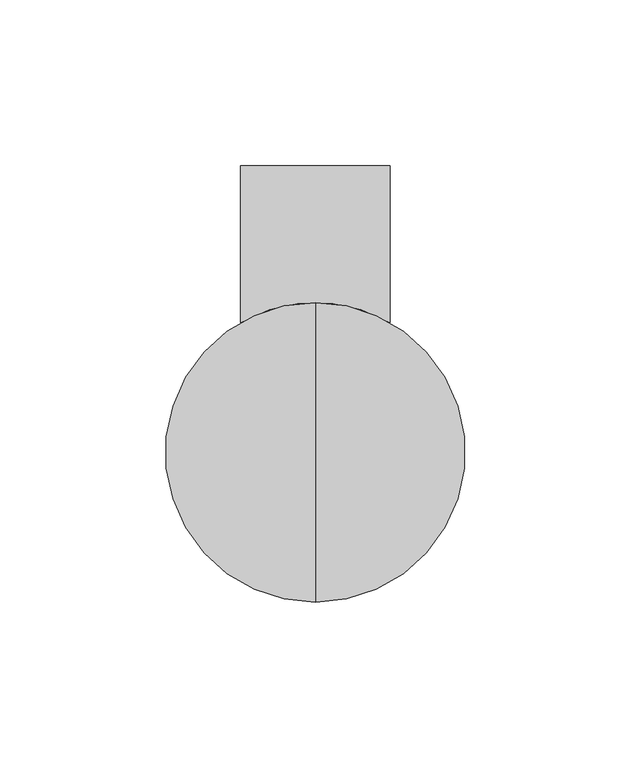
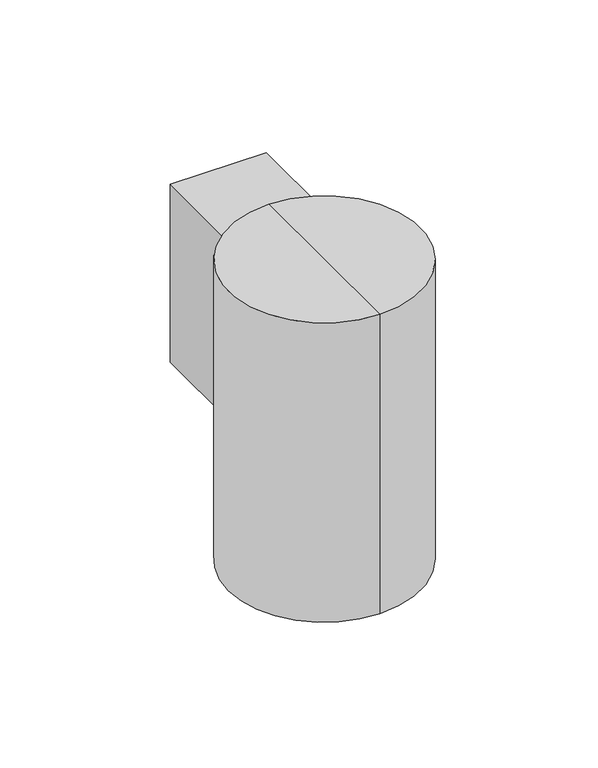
"""IFC4 building model written with IfcOpenShell, lengths in millimetres: light fixture geometry, WD1340 _4 Round 1-Direction Wall Mount_IP65 - 1000Lm : WD1340B-B02-EU-T17-EMAC."""

from ifc_helpers import new_model, si_unit, point, frame, frame_2d, origin, origin_with_axes, place, context, project, spatial, polyline, circle_curve, trimmed, segment, composite_curve, outline, extrude, source, transform, mapped, element, save
from ifc_brep_helpers import plane_surface, cylinder_surface, revolved_surface, advanced_brep


def light_fixture_c68d3dd1(model_context):
    return source(origin(), model_context, "Body", "SolidModel", [
        advanced_brep(
        [(0.0, -120.3366346, 63.0988682), (0.0, -126.6866346, 63.0988682), (0.0, -113.9866346, 63.0988682), (0.0, -113.5478623, 63.9346815), (0.0, -127.1254069, 63.9346815), (0.0, -120.3366346, 63.9346815), (0.0, -79.9408301, 4.6124294), (0.0, -160.7324391, 4.6124294), (0.0, -79.9408301, 3.0021067), (0.0, -160.7324391, 3.0021067)],
        [
            (0, 1),
            (1, 2, circle_curve(frame((0.0, -120.3366346, 63.0988682), z_axis=(0.0, 0.0, -1.0), x_axis=(0.0, -1.0, 0.0)), 6.35)),
            (2, 0),
            (2, 1, circle_curve(frame((0.0, -120.3366346, 63.0988682), z_axis=(0.0, 0.0, -1.0), x_axis=(0.0, -1.0, 0.0)), 6.35)),
            (3, 4, circle_curve(frame((0.0, -120.3366346, 63.9346815), z_axis=(0.0, 0.0, 1.0), x_axis=(0.0, -1.0, 0.0)), 6.7887723)),
            (4, 5),
            (5, 3),
            (4, 3, circle_curve(frame((0.0, -120.3366346, 63.9346815), z_axis=(0.0, 0.0, 1.0), x_axis=(0.0, -1.0, 0.0)), 6.7887723)),
            (6, 7, circle_curve(frame((0.0, -120.3366346, 4.6124294), z_axis=(0.0, 0.0, 1.0), x_axis=(0.0, -1.0, 0.0)), 40.3958045)),
            (7, 4),
            (3, 6),
            (7, 6, circle_curve(frame((0.0, -120.3366346, 4.6124294), z_axis=(0.0, 0.0, 1.0), x_axis=(0.0, -1.0, 0.0)), 40.3958045)),
            (8, 9, circle_curve(frame((0.0, -120.3366346, 3.0021067), z_axis=(0.0, 0.0, 1.0), x_axis=(0.0, -1.0, 0.0)), 40.3958045)),
            (9, 7),
            (6, 8),
            (9, 8, circle_curve(frame((0.0, -120.3366346, 3.0021067), z_axis=(0.0, 0.0, 1.0), x_axis=(0.0, -1.0, 0.0)), 40.3958045)),
            (1, 9),
            (8, 2),
        ],
        [
            plane_surface(frame((0.0, -120.3366346, 63.0988682), z_axis=(0.0, 0.0, -1.0), x_axis=(0.0, -1.0, 0.0))),
            plane_surface(frame((0.0, -120.3366346, 63.9346815), z_axis=(0.0, 0.0, 1.0), x_axis=(0.0, -1.0, 0.0))),
            revolved_surface(polyline([(0.0, -127.1254069, 63.9346815), (0.0, -160.7324391, 4.6124294)]), (0.0, -120.3366346, 92.8545589), (0.0, 0.0, -1.0)),
            cylinder_surface(frame((0.0, -120.3366346, 92.8545589), z_axis=(0.0, 0.0, -1.0), x_axis=(0.0, -1.0, 0.0)), 40.3958045),
            revolved_surface(polyline([(0.0, -160.7324391, 3.0021067), (0.0, -126.6866346, 63.0988682)]), (0.0, -120.3366346, 92.8545589), (0.0, 0.0, -1.0)),
        ],
        [
            (0, [[1, 2, 3]]),
            (0, [[-3, 4, -1]]),
            (1, [[5, 6, 7]]),
            (1, [[8, -7, -6]]),
            (2, [[9, 10, -5, 11]]),
            (2, [[12, -11, -8, -10]]),
            (3, [[13, 14, -9, 15]]),
            (3, [[16, -15, -12, -14]]),
            (4, [[-2, 17, -13, 18]]),
            (4, [[-4, -18, -16, -17]]),
        ],
    ),
        extrude(outline(composite_curve([segment(trimmed(circle_curve(frame_2d((0.0, -120.3366346)), 6.35), [point((-6.35, -120.3366346))], [point((6.35, -120.3366346))], False, "CARTESIAN"), True, "CONTINUOUS"), segment(trimmed(circle_curve(frame_2d((0.0, -120.3366346)), 6.35), [point((6.35, -120.3366346))], [point((-6.35, -120.3366346))], False, "CARTESIAN"), True, "CONTINUOUS")], self_intersect=False)), frame((0.0, 0.0, 53.4410025), z_axis=(0.0, 0.0, 1.0), x_axis=(1.0, 0.0, 0.0)), (0.0, 0.0, 1.0), 9.6578657),
        extrude(outline(composite_curve([segment(trimmed(circle_curve(frame_2d((0.0, -120.3366346)), 40.3958045), [point((-40.3958045, -120.3366346))], [point((40.3958045, -120.3366346))], False, "CARTESIAN"), True, "CONTINUOUS"), segment(trimmed(circle_curve(frame_2d((0.0, -120.3366346)), 40.3958045), [point((40.3958045, -120.3366346))], [point((-40.3958045, -120.3366346))], False, "CARTESIAN"), True, "CONTINUOUS")], self_intersect=False)), origin_with_axes(), (0.0, 0.0, 1.0), 3.0021067),
        extrude(outline(composite_curve([segment(polyline([(22.5964572, -33.7992882), (22.5964572, -81.1612004)]), True, "CONTINUOUS"), segment(trimmed(circle_curve(frame_2d((0.0, -120.3366346)), 45.2251536), [point((22.5964572, -81.1612004))], [point((-22.5964572, -81.1612004))], True, "CARTESIAN"), True, "CONTINUOUS"), segment(polyline([(-22.5964572, -81.1612004), (-22.5964572, -33.7992882), (22.5964572, -33.7992882)]), True, "CONTINUOUS")], self_intersect=False)), frame((0.0, 0.0, 53.4410025), z_axis=(0.0, 0.0, 1.0), x_axis=(1.0, 0.0, 0.0)), (0.0, 0.0, 1.0), 88.5811622),
        advanced_brep(
        [(0.0, -79.9408301, 88.4032374), (0.0, -160.7324391, 88.4032374), (0.0, -160.7324391, 0.0), (0.0, -79.9408301, 0.0), (0.0, -120.3366346, 88.4032374), (0.0, -75.111481, 149.225), (0.0, -165.5617882, 149.225), (0.0, -120.3366346, 149.225), (0.0, -75.111481, 0.0), (0.0, -165.5617882, 0.0)],
        [
            (0, 1, circle_curve(frame((0.0, -120.3366346, 88.4032374), z_axis=(0.0, 0.0, 1.0), x_axis=(0.0, -1.0, 0.0)), 40.3958045)),
            (1, 2),
            (2, 3, circle_curve(frame((0.0, -120.3366346, 0.0), z_axis=(0.0, 0.0, -1.0), x_axis=(0.0, -1.0, 0.0)), 40.3958045)),
            (3, 0),
            (1, 0, circle_curve(frame((0.0, -120.3366346, 88.4032374), z_axis=(0.0, 0.0, 1.0), x_axis=(0.0, -1.0, 0.0)), 40.3958045)),
            (3, 2, circle_curve(frame((0.0, -120.3366346, 0.0), z_axis=(0.0, 0.0, -1.0), x_axis=(0.0, -1.0, 0.0)), 40.3958045)),
            (4, 1),
            (0, 4),
            (5, 6, circle_curve(frame((0.0, -120.3366346, 149.225), z_axis=(0.0, 0.0, 1.0), x_axis=(0.0, -1.0, 0.0)), 45.2251536)),
            (6, 7),
            (7, 5),
            (6, 5, circle_curve(frame((0.0, -120.3366346, 149.225), z_axis=(0.0, 0.0, 1.0), x_axis=(0.0, -1.0, 0.0)), 45.2251536)),
            (8, 9, circle_curve(frame((0.0, -120.3366346, 0.0), z_axis=(0.0, 0.0, 1.0), x_axis=(0.0, -1.0, 0.0)), 45.2251536)),
            (9, 6),
            (5, 8),
            (9, 8, circle_curve(frame((0.0, -120.3366346, 0.0), z_axis=(0.0, 0.0, 1.0), x_axis=(0.0, -1.0, 0.0)), 45.2251536)),
            (2, 9),
            (8, 3),
        ],
        [
            revolved_surface(polyline([(0.0, -160.7324391, 0.0), (0.0, -160.7324391, 88.4032374)]), (0.0, -120.3366346, 200.025), (0.0, 0.0, -1.0)),
            plane_surface(frame((0.0, -120.3366346, 88.4032374), z_axis=(0.0, 0.0, -1.0), x_axis=(0.0, -1.0, 0.0))),
            plane_surface(frame((0.0, -120.3366346, 149.225), z_axis=(0.0, 0.0, 1.0), x_axis=(0.0, -1.0, 0.0))),
            cylinder_surface(frame((0.0, -120.3366346, 200.025), z_axis=(0.0, 0.0, -1.0), x_axis=(0.0, -1.0, 0.0)), 45.2251536),
            plane_surface(frame((0.0, -120.3366346, 0.0), z_axis=(0.0, 0.0, -1.0), x_axis=(0.0, -1.0, 0.0))),
        ],
        [
            (0, [[1, 2, 3, 4]]),
            (0, [[5, -4, 6, -2]]),
            (1, [[7, -1, 8]]),
            (1, [[-8, -5, -7]]),
            (2, [[9, 10, 11]]),
            (2, [[12, -11, -10]]),
            (3, [[13, 14, -9, 15]]),
            (3, [[16, -15, -12, -14]]),
            (4, [[-3, 17, -13, 18]]),
            (4, [[-6, -18, -16, -17]]),
        ],
    ),
    ])


if __name__ == "__main__":
    model = new_model("IFC4")
    model_context = context("Model", 3, world=origin())
    ifc_project = project(units=[si_unit("LENGTHUNIT", "METRE", prefix="MILLI")], contexts=[model_context])
    site = spatial("IfcSite", under=ifc_project)
    building = spatial("IfcBuilding", under=site)
    placement = place(None, origin())
    light_fixture_shape = light_fixture_c68d3dd1(model_context)
    element("IfcLightFixture", 1, ObjectType="WD1340 _4 Round 1-Direction Wall Mount_IP65 - 1000Lm : WD1340B-B02-EU-T17-EMAC", at=placement, inside=building, context=model_context, shape_type="MappedRepresentation", body=[
        mapped(light_fixture_shape, transform((0.0, 0.0, 0.0), x_axis=(1.0, 0.0, 0.0), y_axis=(0.0, 1.0, 0.0), z_axis=(0.0, 0.0, 1.0))),
    ])
    save(model, "model.ifc")
